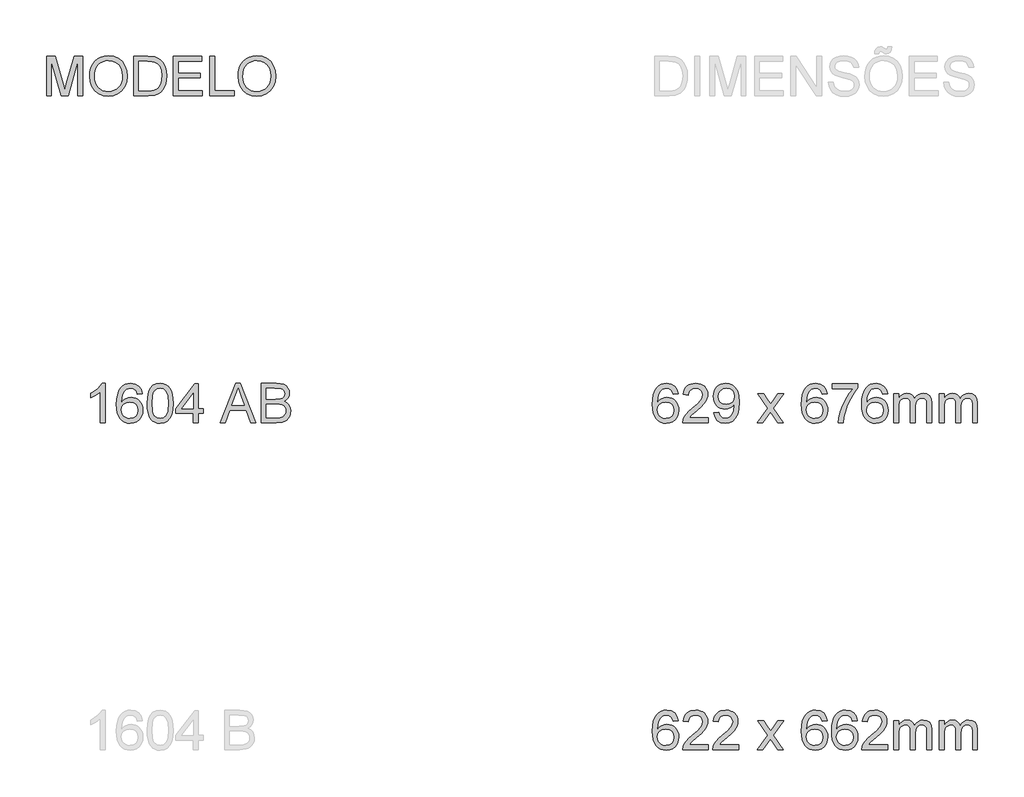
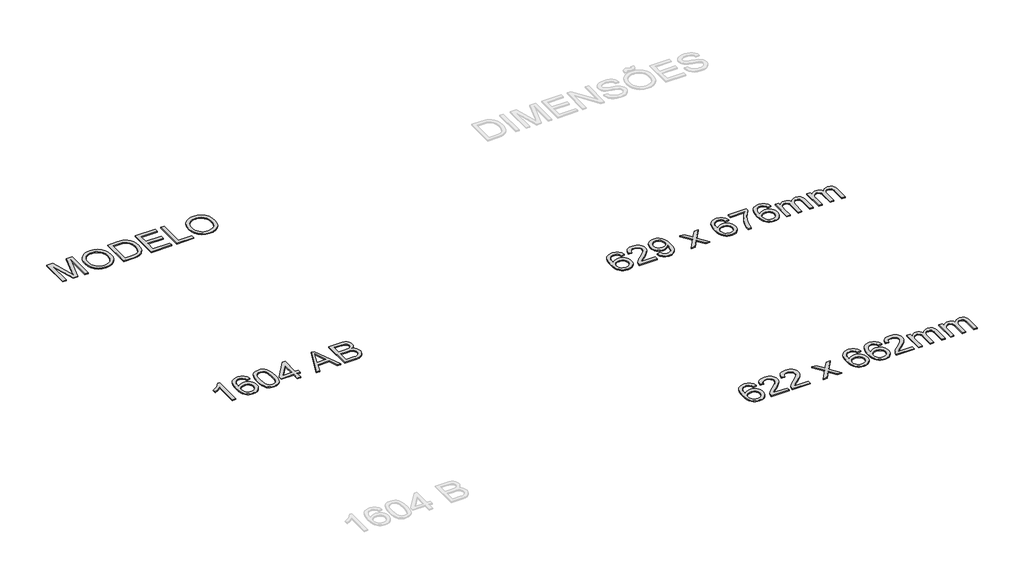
# One storey, part 32 of 39: 4 proxies.
"""IFC4 building model written with IfcOpenShell, lengths in millimetres."""

from ifc_helpers import new_model, si_unit, origin, origin_with_axes, place, context, project, spatial, polyline, outline, extrude, element, save

model = new_model("IFC4")

# Units and contexts
model_context = context("Model", 3, world=origin())
ifc_project = project(units=[si_unit("LENGTHUNIT", "METRE", prefix="MILLI")], contexts=[model_context])

# Site, building, storey
site = spatial("IfcSite", under=ifc_project)
building = spatial("IfcBuilding", under=site)
storey = spatial("IfcBuildingStorey", under=building, Name="Marelli - Linha PROFIT - Planta Baixa", Elevation=0.0)

# Proxies
placement = place(None, origin())
element("IfcBuildingElementProxy", 1, Name="300mm Arial", ObjectType="300mm Arial", at=placement, inside=storey, context=model_context, shape_type="SweptSolid", body=[
    extrude(outline(polyline([(-25136.3969286, 11940.7514882), (-25174.0680449, 11936.0425987), (-25180.1380978, 11954.7126099), (-25188.3418663, 11967.4597211), (-25205.429985, 11979.2135508), (-25226.086559, 11983.1314941), (-25243.597742, 11980.8506257), (-25260.0788554, 11974.0080206), (-25274.2331151, 11959.5962434), (-25285.7938068, 11939.7582068), (-25293.6021022, 11911.6980077), (-25296.4991729, 11872.6197427), (-25281.3884199, 11890.2504873), (-25263.2794287, 11902.6757017), (-25243.1838747, 11910.0425387), (-25222.1134335, 11912.498151), (-25204.0136393, 11910.8196894), (-25187.3117967, 11905.7843046), (-25172.0079057, 11897.3919966), (-25158.1019663, 11885.6427654), (-25146.5458731, 11871.2355867), (-25138.2915209, 11854.8694365), (-25133.3389095, 11836.5443146), (-25131.6880391, 11816.2602211), (-25134.7966419, 11789.2852738), (-25144.1224505, 11764.2784951), (-25158.8929126, 11743.0700981), (-25178.335476, 11727.4902956), (-25201.567224, 11717.9161667), (-25227.7052398, 11714.7247904), (-25250.1621363, 11716.8401119), (-25270.4439306, 11723.1860763), (-25288.5506225, 11733.7626836), (-25304.4822122, 11748.5699339), (-25317.4707459, 11768.2332266), (-25326.7482699, 11793.377961), (-25332.3147844, 11824.0041371), (-25334.1702892, 11860.1117549), (-25332.11015, 11900.5925699), (-25325.9297325, 11935.1412878), (-25315.6290366, 11963.7579085), (-25301.2080624, 11986.442432), (-25285.5776762, 12001.4750101), (-25267.4548894, 12012.2125658), (-25246.8397021, 12018.6550992), (-25223.7321142, 12020.8026104), (-25190.677917, 12015.4867156), (-25164.2088074, 11999.5390311), (-25145.6675549, 11974.2103557), (-25136.3969286, 11940.7514882)]), holes=[polyline([(-25296.4991729, 11816.8488323), (-25294.3194721, 11800.1561867), (-25287.7803696, 11784.2176993), (-25277.6268265, 11770.514095), (-25264.6038039, 11760.5260988), (-25248.8860457, 11754.4284547), (-25230.6482958, 11752.3959067), (-25205.7886699, 11756.6081555), (-25186.2449389, 11769.2449021), (-25173.5806013, 11789.1105298), (-25169.3591554, 11815.0094223), (-25173.525419, 11839.8690481), (-25186.0242097, 11858.8241679), (-25205.8990345, 11870.826318), (-25232.1934001, 11874.8270347), (-25257.0162378, 11870.826318), (-25277.7739793, 11858.8241679), (-25291.8178745, 11840.3289006), (-25296.4991729, 11816.8488323)])]), origin_with_axes(), (0.0, 0.0, 1.0), 10.0),
    extrude(outline(polyline([(-24905.6613412, 11757.1047962), (-24905.6613412, 11719.4336799), (-25103.4347018, 11719.4336799), (-25099.3879999, 11745.4061488), (-25090.0989795, 11765.7040379), (-25076.5057398, 11785.3949217), (-25056.8424471, 11806.0055104), (-25029.343268, 11829.0625145), (-24988.6923075, 11865.1701323), (-24964.3017312, 11891.8231829), (-24952.1064431, 11913.4546442), (-24948.0413471, 11934.4974943), (-24951.8765169, 11953.3606436), (-24963.3820263, 11969.0416137), (-24981.0679532, 11979.609024), (-25003.4443755, 11983.1314941), (-25026.942838, 11979.6917974), (-25045.198982, 11969.3727075), (-25056.9804029, 11952.9835646), (-25061.054696, 11931.3337092), (-25098.7258123, 11936.0425987), (-25089.5931418, 11972.4813103), (-25081.0467832, 11987.0172476), (-25069.8470757, 11999.0975727), (-25056.2515367, 12008.5935267), (-25040.5176836, 12015.376351), (-25002.6350351, 12020.8026104), (-24982.4452114, 12019.2942942), (-24964.4764752, 12014.7693457), (-24948.7288265, 12007.2277648), (-24935.2022654, 11996.6695515), (-24924.3382503, 11983.8764551), (-24916.5782394, 11969.6302249), (-24911.9222329, 11953.9308607), (-24910.3702308, 11936.7783627), (-24912.0440938, 11918.761342), (-24917.0656831, 11901.057021), (-24925.9776244, 11883.0491973), (-24939.3225438, 11864.1216686), (-24960.5953201, 11841.5245171), (-24993.2908325, 11812.5078247), (-25036.6273315, 11776.2714482), (-25053.6234797, 11757.1047962), (-24905.6613412, 11757.1047962)])), origin_with_axes(), (0.0, 0.0, 1.0), 10.0),
    extrude(outline(polyline([(-24863.2813354, 11794.7759125), (-24825.6102191, 11799.4848021), (-24819.1722841, 11778.1016611), (-24808.6876473, 11763.5427312), (-24794.4138259, 11755.1826128), (-24776.6083373, 11752.3959067), (-24760.6330617, 11754.1893314), (-24746.1109199, 11759.5696056), (-24734.0443905, 11767.948118), (-24725.4359518, 11778.7362576), (-24713.1119049, 11811.4777551), (-24707.6672514, 11855.1821362), (-24707.8879806, 11862.5397761), (-24720.9385944, 11846.6104857), (-24738.017516, 11833.9921332), (-24757.8923408, 11825.7699706), (-24779.3306641, 11823.0292498), (-24797.2258239, 11824.7031129), (-24813.6816454, 11829.7247021), (-24828.6981286, 11838.0940175), (-24842.2752734, 11849.811059), (-24853.5255647, 11864.2642229), (-24861.561487, 11880.8419053), (-24866.3830404, 11899.5441062), (-24867.9902249, 11920.3708257), (-24866.3048655, 11941.8919224), (-24861.2487873, 11961.2057272), (-24852.8219904, 11978.3122399), (-24841.0244747, 11993.2114607), (-24826.6885732, 12005.2825887), (-24810.6466189, 12013.904823), (-24792.8986119, 12019.0781635), (-24773.4445521, 12020.8026104), (-24745.3475648, 12016.866273), (-24719.7705691, 12005.057261), (-24698.378231, 11985.9641854), (-24682.8352167, 11960.1756576), (-24673.3714524, 11924.5278922), (-24670.2168643, 11875.8571043), (-24673.3622554, 11824.2524574), (-24682.7984285, 11784.3648521), (-24698.4426104, 11754.3916665), (-24720.2120274, 11732.530279), (-24747.1685806, 11719.1761625), (-24778.3741709, 11714.7247904), (-24810.5822396, 11719.9763059), (-24836.2787969, 11735.7308523), (-24854.2498324, 11760.9951483), (-24863.2813354, 11794.7759125)]), holes=[polyline([(-24707.8879806, 11921.2537425), (-24711.9530767, 11946.784753), (-24724.1483648, 11966.4296515), (-24743.0758934, 11978.9560334), (-24767.337711, 11983.1314941), (-24792.5008395, 11978.6341367), (-24812.6607728, 11965.1420645), (-24825.9045247, 11944.4946875), (-24830.3191086, 11918.5314157), (-24826.143648, 11895.2536825), (-24813.617266, 11876.7768093), (-24793.9539734, 11864.7194769), (-24768.3677806, 11860.7003661), (-24744.2991011, 11864.7194769), (-24724.920917, 11876.7768093), (-24712.1462147, 11895.9342642), (-24707.8879806, 11921.2537425)])]), origin_with_axes(), (0.0, 0.0, 1.0), 10.0),
    extrude(outline(polyline([(-24533.6590677, 11719.4336799), (-24453.1664871, 11830.6811953), (-24528.9501782, 11940.7514882), (-24483.6271163, 11940.7514882), (-24447.059646, 11887.7764809), (-24429.9899215, 11862.7605053), (-24415.2010652, 11883.2147442), (-24373.5568234, 11940.7514882), (-24328.2337616, 11940.7514882), (-24407.8434253, 11830.6811953), (-24331.1768175, 11719.4336799), (-24376.4998794, 11719.4336799), (-24422.6322815, 11786.3146267), (-24431.0935674, 11798.5283089), (-24488.3360059, 11719.4336799), (-24533.6590677, 11719.4336799)])), origin_with_axes(), (0.0, 0.0, 1.0), 10.0),
    extrude(outline(polyline([(-23996.8456603, 11940.7514882), (-24034.5167766, 11936.0425987), (-24040.5868296, 11954.7126099), (-24048.790598, 11967.4597211), (-24065.8787167, 11979.2135508), (-24086.5352908, 11983.1314941), (-24104.0464737, 11980.8506257), (-24120.5275871, 11974.0080206), (-24134.6818469, 11959.5962434), (-24146.2425386, 11939.7582068), (-24154.0508339, 11911.6980077), (-24156.9479046, 11872.6197427), (-24141.8371517, 11890.2504873), (-24123.7281605, 11902.6757017), (-24103.6326065, 11910.0425387), (-24082.5621652, 11912.498151), (-24064.462371, 11910.8196894), (-24047.7605285, 11905.7843046), (-24032.4566375, 11897.3919966), (-24018.550698, 11885.6427654), (-24006.9946049, 11871.2355867), (-23998.7402526, 11854.8694365), (-23993.7876412, 11836.5443146), (-23992.1367708, 11816.2602211), (-23995.2453737, 11789.2852738), (-24004.5711822, 11764.2784951), (-24019.3416443, 11743.0700981), (-24038.7842078, 11727.4902956), (-24062.0159558, 11717.9161667), (-24088.1539715, 11714.7247904), (-24110.6108681, 11716.8401119), (-24130.8926623, 11723.1860763), (-24148.9993543, 11733.7626836), (-24164.9309439, 11748.5699339), (-24177.9194776, 11768.2332266), (-24187.1970017, 11793.377961), (-24192.7635161, 11824.0041371), (-24194.6190209, 11860.1117549), (-24192.5588818, 11900.5925699), (-24186.3784642, 11935.1412878), (-24176.0777684, 11963.7579085), (-24161.6567942, 11986.442432), (-24146.0264079, 12001.4750101), (-24127.9036211, 12012.2125658), (-24107.2884338, 12018.6550992), (-24084.180846, 12020.8026104), (-24051.1266487, 12015.4867156), (-24024.6575392, 11999.5390311), (-24006.1162866, 11974.2103557), (-23996.8456603, 11940.7514882)]), holes=[polyline([(-24156.9479046, 11816.8488323), (-24154.7682038, 11800.1561867), (-24148.2291013, 11784.2176993), (-24138.0755583, 11770.514095), (-24125.0525356, 11760.5260988), (-24109.3347774, 11754.4284547), (-24091.0970275, 11752.3959067), (-24066.2374017, 11756.6081555), (-24046.6936707, 11769.2449021), (-24034.029333, 11789.1105298), (-24029.8078871, 11815.0094223), (-24033.9741507, 11839.8690481), (-24046.4729415, 11858.8241679), (-24066.3477663, 11870.826318), (-24092.6421319, 11874.8270347), (-24117.4649695, 11870.826318), (-24138.2227111, 11858.8241679), (-24152.2666062, 11840.3289006), (-24156.9479046, 11816.8488323)])]), origin_with_axes(), (0.0, 0.0, 1.0), 10.0),
    extrude(outline(polyline([(-23959.174544, 11978.4226045), (-23959.174544, 12016.0937208), (-23761.4011834, 12016.0937208), (-23761.4011834, 11985.6330916), (-23789.5901413, 11949.9577352), (-23817.5031877, 11904.5886881), (-23842.1236902, 11853.6646229), (-23860.4350165, 11801.3242121), (-23869.4113372, 11762.1631737), (-23874.4145323, 11719.4336799), (-23912.0856486, 11719.4336799), (-23908.0113555, 11758.2636245), (-23897.1128514, 11804.4144208), (-23879.6844419, 11853.3335291), (-23856.0204326, 11900.4684098), (-23828.3924947, 11943.0783418), (-23799.0722997, 11978.4226045), (-23959.174544, 11978.4226045)])), origin_with_axes(), (0.0, 0.0, 1.0), 10.0),
    extrude(outline(polyline([(-23535.3744856, 11940.7514882), (-23573.0456019, 11936.0425987), (-23579.1156548, 11954.7126099), (-23587.3194233, 11967.4597211), (-23604.407542, 11979.2135508), (-23625.064116, 11983.1314941), (-23642.575299, 11980.8506257), (-23659.0564124, 11974.0080206), (-23673.2106721, 11959.5962434), (-23684.7713638, 11939.7582068), (-23692.5796592, 11911.6980077), (-23695.4767299, 11872.6197427), (-23680.3659769, 11890.2504873), (-23662.2569857, 11902.6757017), (-23642.1614317, 11910.0425387), (-23621.0909905, 11912.498151), (-23602.9911963, 11910.8196894), (-23586.2893537, 11905.7843046), (-23570.9854627, 11897.3919966), (-23557.0795233, 11885.6427654), (-23545.5234301, 11871.2355867), (-23537.2690779, 11854.8694365), (-23532.3164665, 11836.5443146), (-23530.665596, 11816.2602211), (-23533.7741989, 11789.2852738), (-23543.1000075, 11764.2784951), (-23557.8704696, 11743.0700981), (-23577.313033, 11727.4902956), (-23600.544781, 11717.9161667), (-23626.6827968, 11714.7247904), (-23649.1396933, 11716.8401119), (-23669.4214876, 11723.1860763), (-23687.5281795, 11733.7626836), (-23703.4597692, 11748.5699339), (-23716.4483029, 11768.2332266), (-23725.7258269, 11793.377961), (-23731.2923414, 11824.0041371), (-23733.1478462, 11860.1117549), (-23731.087707, 11900.5925699), (-23724.9072895, 11935.1412878), (-23714.6065936, 11963.7579085), (-23700.1856194, 11986.442432), (-23684.5552331, 12001.4750101), (-23666.4324464, 12012.2125658), (-23645.8172591, 12018.6550992), (-23622.7096712, 12020.8026104), (-23589.655474, 12015.4867156), (-23563.1863644, 11999.5390311), (-23544.6451119, 11974.2103557), (-23535.3744856, 11940.7514882)]), holes=[polyline([(-23695.4767299, 11816.8488323), (-23693.2970291, 11800.1561867), (-23686.7579266, 11784.2176993), (-23676.6043835, 11770.514095), (-23663.5813609, 11760.5260988), (-23647.8636027, 11754.4284547), (-23629.6258527, 11752.3959067), (-23604.7662269, 11756.6081555), (-23585.2224959, 11769.2449021), (-23572.5581582, 11789.1105298), (-23568.3367123, 11815.0094223), (-23572.5029759, 11839.8690481), (-23585.0017667, 11858.8241679), (-23604.8765915, 11870.826318), (-23631.1709571, 11874.8270347), (-23655.9937947, 11870.826318), (-23676.7515363, 11858.8241679), (-23690.7954315, 11840.3289006), (-23695.4767299, 11816.8488323)])]), origin_with_axes(), (0.0, 0.0, 1.0), 10.0),
    extrude(outline(polyline([(-23488.2855902, 11719.4336799), (-23488.2855902, 11940.7514882), (-23450.6144739, 11940.7514882), (-23450.6144739, 11904.3311707), (-23439.2837084, 11921.0606044), (-23424.7155814, 11934.1664005), (-23407.4067336, 11942.6368835), (-23387.8538055, 11945.4603778), (-23366.9029259, 11942.5817012), (-23350.1091128, 11933.9456713), (-23337.5643368, 11920.1225054), (-23329.3605683, 11901.6824203), (-23315.6293728, 11920.8352767), (-23299.9667969, 11934.5158884), (-23282.3728404, 11942.7242554), (-23262.8475036, 11945.4603778), (-23234.529787, 11940.9078381), (-23213.5881044, 11927.250219), (-23200.6478552, 11904.1196386), (-23196.3344388, 11871.1482147), (-23196.3344388, 11719.4336799), (-23234.0055551, 11719.4336799), (-23234.0055551, 11854.961407), (-23237.5004341, 11886.4153175), (-23242.4116587, 11895.0881356), (-23250.1555747, 11901.9031495), (-23260.1159797, 11906.3177335), (-23271.6766714, 11907.7892615), (-23292.0849251, 11904.018471), (-23308.7223884, 11892.7060997), (-23319.7864394, 11873.0795952), (-23323.4744564, 11844.3664055), (-23323.4744564, 11719.4336799), (-23361.1455727, 11719.4336799), (-23361.1455727, 11859.1552617), (-23363.3252735, 11880.4556292), (-23369.864376, 11895.6491556), (-23381.3698853, 11904.754235), (-23398.448807, 11907.7892615), (-23412.9617517, 11905.7659105), (-23426.3342622, 11899.6958576), (-23437.3707221, 11889.7262555), (-23444.8755148, 11876.0042571), (-23449.1797341, 11856.9663638), (-23450.6144739, 11831.0490773), (-23450.6144739, 11719.4336799), (-23488.2855902, 11719.4336799)])), origin_with_axes(), (0.0, 0.0, 1.0), 10.0),
    extrude(outline(polyline([(-23139.8277644, 11719.4336799), (-23139.8277644, 11940.7514882), (-23102.1566481, 11940.7514882), (-23102.1566481, 11904.3311707), (-23090.8258826, 11921.0606044), (-23076.2577556, 11934.1664005), (-23058.9489077, 11942.6368835), (-23039.3959797, 11945.4603778), (-23018.4451001, 11942.5817012), (-23001.651287, 11933.9456713), (-22989.1065109, 11920.1225054), (-22980.9027425, 11901.6824203), (-22967.171547, 11920.8352767), (-22951.508971, 11934.5158884), (-22933.9150146, 11942.7242554), (-22914.3896777, 11945.4603778), (-22886.0719611, 11940.9078381), (-22865.1302786, 11927.250219), (-22852.1900294, 11904.1196386), (-22847.876613, 11871.1482147), (-22847.876613, 11719.4336799), (-22885.5477293, 11719.4336799), (-22885.5477293, 11854.961407), (-22889.0426083, 11886.4153175), (-22893.9538329, 11895.0881356), (-22901.6977489, 11901.9031495), (-22911.6581539, 11906.3177335), (-22923.2188456, 11907.7892615), (-22943.6270993, 11904.018471), (-22960.2645625, 11892.7060997), (-22971.3286135, 11873.0795952), (-22975.0166305, 11844.3664055), (-22975.0166305, 11719.4336799), (-23012.6877468, 11719.4336799), (-23012.6877468, 11859.1552617), (-23014.8674477, 11880.4556292), (-23021.4065501, 11895.6491556), (-23032.9120595, 11904.754235), (-23049.9909811, 11907.7892615), (-23064.5039259, 11905.7659105), (-23077.8764364, 11899.6958576), (-23088.9128962, 11889.7262555), (-23096.4176889, 11876.0042571), (-23100.7219083, 11856.9663638), (-23102.1566481, 11831.0490773), (-23102.1566481, 11719.4336799), (-23139.8277644, 11719.4336799)])), origin_with_axes(), (0.0, 0.0, 1.0), 10.0),
])
element("IfcBuildingElementProxy", 2, Name="300mm Arial", ObjectType="300mm Arial", at=placement, inside=storey, context=model_context, shape_type="SweptSolid", body=[
    extrude(outline(polyline([(-29966.8769052, 14219.4336799), (-29966.8769052, 14520.8026104), (-29902.0560977, 14520.8026104), (-29840.3990753, 14308.3875464), (-29827.9646638, 14264.0209777), (-29814.5001828, 14312.0663663), (-29753.87323, 14520.8026104), (-29689.0524225, 14520.8026104), (-29689.0524225, 14219.4336799), (-29726.7235388, 14219.4336799), (-29726.7235388, 14483.1314941), (-29802.4336534, 14219.4336799), (-29853.4956743, 14219.4336799), (-29929.2057889, 14483.1314941), (-29929.2057889, 14219.4336799), (-29966.8769052, 14219.4336799)])), origin_with_axes(), (0.0, 0.0, 1.0), 10.0),
    extrude(outline(polyline([(-29637.2546375, 14366.1450196), (-29634.7438429, 14401.4938808), (-29627.2114591, 14432.786843), (-29614.657486, 14460.0239063), (-29597.0819237, 14483.2050705), (-29575.5378343, 14501.7141334), (-29551.0782802, 14514.9348926), (-29523.7032612, 14522.8673481), (-29493.4127774, 14525.5114999), (-29453.883857, 14520.545093), (-29418.4384268, 14505.6458722), (-29389.0078672, 14481.8623012), (-29367.5235587, 14450.2428437), (-29354.3901714, 14412.31421), (-29350.0123757, 14369.6031104), (-29354.6200977, 14326.3217936), (-29368.4432637, 14287.859731), (-29390.7185185, 14256.1850913), (-29420.682507, 14233.266043), (-29455.8244346, 14219.3601035), (-29493.6335066, 14214.7247904), (-29533.7694323, 14219.8475472), (-29569.4171976, 14235.2158175), (-29598.7741808, 14259.4408469), (-29620.0377602, 14291.1338808), (-29632.9504182, 14327.6001836), (-29637.2546375, 14366.1450196)]), holes=[polyline([(-29599.5835212, 14365.7771376), (-29597.7004253, 14340.8025487), (-29592.0511374, 14318.6330599), (-29582.6356576, 14299.2686714), (-29569.4539858, 14282.7093831), (-29553.4304257, 14269.4472372), (-29535.4892806, 14259.9742758), (-29515.6305507, 14254.290499), (-29493.8542358, 14252.3959067), (-29471.7054404, 14254.3088931), (-29451.6121857, 14260.0478522), (-29433.5744716, 14269.6127841), (-29417.5922982, 14283.0036887), (-29404.5071955, 14299.9124649), (-29395.1606936, 14320.0310115), (-29389.5527924, 14343.3593285), (-29387.683492, 14369.897416), (-29390.8840654, 14403.2459188), (-29400.4857854, 14432.0694731), (-29416.2403319, 14455.641512), (-29437.8993843, 14473.2354684), (-29464.0282031, 14484.1891548), (-29493.1920482, 14487.8403836), (-29514.2119057, 14486.0814478), (-29533.71425, 14480.8046405), (-29551.699081, 14472.0099615), (-29568.1663988, 14459.697411), (-29581.9113899, 14443.2737792), (-29591.7292406, 14422.1458563), (-29597.6199511, 14396.3136425), (-29599.5835212, 14365.7771376)])]), origin_with_axes(), (0.0, 0.0, 1.0), 10.0),
    extrude(outline(polyline([(-29298.2145908, 14219.4336799), (-29298.2145908, 14520.8026104), (-29194.2511389, 14520.8026104), (-29140.4667912, 14516.4616028), (-29116.444097, 14508.0922874), (-29096.173799, 14494.9037179), (-29075.333284, 14471.9478814), (-29060.4892455, 14443.4002386), (-29051.6048953, 14409.8126124), (-29048.6434453, 14371.7368259), (-29050.6484021, 14339.3908015), (-29056.6632727, 14310.9259321), (-29065.8235344, 14286.6917057), (-29077.2646645, 14267.0376101), (-29090.4348399, 14251.522187), (-29104.7822377, 14239.7039779), (-29121.254154, 14230.9391893), (-29140.797885, 14224.5840279), (-29189.2479438, 14219.4336799), (-29298.2145908, 14219.4336799)]), holes=[polyline([(-29260.5434745, 14257.1047962), (-29193.8832569, 14257.1047962), (-29166.3105014, 14258.4659596), (-29145.39641, 14262.5494498), (-29129.6142724, 14269.1161434), (-29117.4373783, 14277.9269172), (-29104.3499764, 14294.2332866), (-29094.51833, 14315.3405161), (-29088.3655037, 14341.3405761), (-29086.3145616, 14372.3254371), (-29090.3336724, 14413.3810678), (-29102.3910047, 14443.6945442), (-29120.2056904, 14464.5166651), (-29141.4968608, 14477.0982294), (-29163.1651103, 14481.6231779), (-29194.9133265, 14483.1314941), (-29260.5434745, 14483.1314941), (-29260.5434745, 14257.1047962)])]), origin_with_axes(), (0.0, 0.0, 1.0), 10.0),
    extrude(outline(polyline([(-28996.8456603, 14219.4336799), (-28996.8456603, 14520.8026104), (-28780.2367416, 14520.8026104), (-28780.2367416, 14483.1314941), (-28959.174544, 14483.1314941), (-28959.174544, 14393.6625928), (-28789.6545206, 14393.6625928), (-28789.6545206, 14355.9914765), (-28959.174544, 14355.9914765), (-28959.174544, 14257.1047962), (-28775.527852, 14257.1047962), (-28775.527852, 14219.4336799), (-28996.8456603, 14219.4336799)])), origin_with_axes(), (0.0, 0.0, 1.0), 10.0),
    extrude(outline(polyline([(-28719.0211776, 14219.4336799), (-28719.0211776, 14520.8026104), (-28681.3500613, 14520.8026104), (-28681.3500613, 14257.1047962), (-28530.665596, 14257.1047962), (-28530.665596, 14219.4336799), (-28719.0211776, 14219.4336799)])), origin_with_axes(), (0.0, 0.0, 1.0), 10.0),
    extrude(outline(polyline([(-28502.4122588, 14366.1450196), (-28499.9014642, 14401.4938808), (-28492.3690803, 14432.786843), (-28479.8151073, 14460.0239063), (-28462.2395449, 14483.2050705), (-28440.6954556, 14501.7141334), (-28416.2359014, 14514.9348926), (-28388.8608825, 14522.8673481), (-28358.5703987, 14525.5114999), (-28319.0414783, 14520.545093), (-28283.5960481, 14505.6458722), (-28254.1654885, 14481.8623012), (-28232.6811799, 14450.2428437), (-28219.5477927, 14412.31421), (-28215.169997, 14369.6031104), (-28219.777719, 14326.3217936), (-28233.6008849, 14287.859731), (-28255.8761397, 14256.1850913), (-28285.8401283, 14233.266043), (-28320.9820558, 14219.3601035), (-28358.7911279, 14214.7247904), (-28398.9270536, 14219.8475472), (-28434.5748189, 14235.2158175), (-28463.9318021, 14259.4408469), (-28485.1953814, 14291.1338808), (-28498.1080395, 14327.6001836), (-28502.4122588, 14366.1450196)]), holes=[polyline([(-28464.7411425, 14365.7771376), (-28462.8580465, 14340.8025487), (-28457.2087587, 14318.6330599), (-28447.7932788, 14299.2686714), (-28434.6116071, 14282.7093831), (-28418.5880469, 14269.4472372), (-28400.6469019, 14259.9742758), (-28380.7881719, 14254.290499), (-28359.0118571, 14252.3959067), (-28336.8630617, 14254.3088931), (-28316.769807, 14260.0478522), (-28298.7320929, 14269.6127841), (-28282.7499195, 14283.0036887), (-28269.6648168, 14299.9124649), (-28260.3183148, 14320.0310115), (-28254.7104137, 14343.3593285), (-28252.8411133, 14369.897416), (-28256.0416866, 14403.2459188), (-28265.6434067, 14432.0694731), (-28281.3979532, 14455.641512), (-28303.0570056, 14473.2354684), (-28329.1858243, 14484.1891548), (-28358.3496695, 14487.8403836), (-28379.369527, 14486.0814478), (-28398.8718713, 14480.8046405), (-28416.8567023, 14472.0099615), (-28433.3240201, 14459.697411), (-28447.0690112, 14443.2737792), (-28456.8868619, 14422.1458563), (-28462.7775724, 14396.3136425), (-28464.7411425, 14365.7771376)])]), origin_with_axes(), (0.0, 0.0, 1.0), 10.0),
])
element("IfcBuildingElementProxy", 3, Name="300mm Arial", ObjectType="300mm Arial", at=placement, inside=storey, context=model_context, shape_type="SweptSolid", body=[
    extrude(outline(polyline([(-29517.1779543, 11719.4336799), (-29554.8490706, 11719.4336799), (-29554.8490706, 11954.2895457), (-29590.5336241, 11928.8688998), (-29630.1913032, 11909.8494006), (-29630.1913032, 11945.4603778), (-29600.6043938, 11961.5552151), (-29574.9722158, 11980.7034729), (-29554.7662972, 12001.0657413), (-29541.458166, 12020.8026104), (-29517.1779543, 12020.8026104), (-29517.1779543, 11719.4336799)])), origin_with_axes(), (0.0, 0.0, 1.0), 10.0),
    extrude(outline(polyline([(-29234.644582, 11940.7514882), (-29272.3156983, 11936.0425987), (-29278.3857512, 11954.7126099), (-29286.5895197, 11967.4597211), (-29303.6776384, 11979.2135508), (-29324.3342124, 11983.1314941), (-29341.8453954, 11980.8506257), (-29358.3265088, 11974.0080206), (-29372.4807686, 11959.5962434), (-29384.0414603, 11939.7582068), (-29391.8497556, 11911.6980077), (-29394.7468263, 11872.6197427), (-29379.6360734, 11890.2504873), (-29361.5270821, 11902.6757017), (-29341.4315282, 11910.0425387), (-29320.3610869, 11912.498151), (-29302.2612927, 11910.8196894), (-29285.5594501, 11905.7843046), (-29270.2555591, 11897.3919966), (-29256.3496197, 11885.6427654), (-29244.7935266, 11871.2355867), (-29236.5391743, 11854.8694365), (-29231.5865629, 11836.5443146), (-29229.9356925, 11816.2602211), (-29233.0442953, 11789.2852738), (-29242.3701039, 11764.2784951), (-29257.140566, 11743.0700981), (-29276.5831295, 11727.4902956), (-29299.8148775, 11717.9161667), (-29325.9528932, 11714.7247904), (-29348.4097898, 11716.8401119), (-29368.691584, 11723.1860763), (-29386.798276, 11733.7626836), (-29402.7298656, 11748.5699339), (-29415.7183993, 11768.2332266), (-29424.9959234, 11793.377961), (-29430.5624378, 11824.0041371), (-29432.4179426, 11860.1117549), (-29430.3578034, 11900.5925699), (-29424.1773859, 11935.1412878), (-29413.8766901, 11963.7579085), (-29399.4557159, 11986.442432), (-29383.8253296, 12001.4750101), (-29365.7025428, 12012.2125658), (-29345.0873555, 12018.6550992), (-29321.9797677, 12020.8026104), (-29288.9255704, 12015.4867156), (-29262.4564608, 11999.5390311), (-29243.9152083, 11974.2103557), (-29234.644582, 11940.7514882)]), holes=[polyline([(-29394.7468263, 11816.8488323), (-29392.5671255, 11800.1561867), (-29386.028023, 11784.2176993), (-29375.87448, 11770.514095), (-29362.8514573, 11760.5260988), (-29347.1336991, 11754.4284547), (-29328.8959492, 11752.3959067), (-29304.0363234, 11756.6081555), (-29284.4925924, 11769.2449021), (-29271.8282547, 11789.1105298), (-29267.6068088, 11815.0094223), (-29271.7730724, 11839.8690481), (-29284.2718632, 11858.8241679), (-29304.146688, 11870.826318), (-29330.4410536, 11874.8270347), (-29355.2638912, 11870.826318), (-29376.0216328, 11858.8241679), (-29390.0655279, 11840.3289006), (-29394.7468263, 11816.8488323)])]), origin_with_axes(), (0.0, 0.0, 1.0), 10.0),
    extrude(outline(polyline([(-29196.9734657, 11867.690124), (-29194.2051537, 11915.9286506), (-29185.9002177, 11954.3999103), (-29172.141431, 11983.6925141), (-29153.0115673, 12004.3950734), (-29128.3726707, 12016.7007261), (-29098.0867854, 12020.8026104), (-29074.8734315, 12018.3745892), (-29054.0880988, 12011.0905257), (-29036.7056745, 11999.2355284), (-29023.701046, 11983.0947059), (-29013.8785967, 11962.8060138), (-29006.0427102, 11938.5074081), (-29000.9107564, 11907.6513057), (-28999.2001051, 11867.690124), (-29001.940826, 11819.7275089), (-29010.1629886, 11781.3482197), (-29023.8390017, 11752.0280247), (-29042.9412743, 11731.242692), (-29067.6353533, 11718.8542658), (-29098.0867854, 11714.7247904), (-29118.8353299, 11716.5182151), (-29137.2294297, 11721.8984893), (-29153.2690847, 11730.8656129), (-29166.9542949, 11743.419586), (-29180.0876821, 11766.1133066), (-29189.468673, 11794.3896364), (-29195.0972675, 11828.2485756), (-29196.9734657, 11867.690124)]), holes=[polyline([(-29159.3023494, 11867.7637004), (-29154.8877655, 11808.507108), (-29149.3695355, 11788.2391093), (-29141.6440136, 11774.211309), (-29121.9255387, 11757.8497573), (-29098.0867854, 11752.3959067), (-29074.2480321, 11757.8681514), (-29054.5295572, 11774.2848854), (-29046.8040353, 11788.3356784), (-29041.2858053, 11808.5990785), (-29036.8712214, 11867.7637004), (-29041.1386525, 11925.6867205), (-29046.4729415, 11945.8880406), (-29053.940946, 11960.249234), (-29073.6226327, 11977.410929), (-29098.5282438, 11983.1314941), (-29122.1094797, 11978.0915107), (-29141.0554024, 11962.9715607), (-29149.0384417, 11947.3365759), (-29154.7406127, 11926.2569376), (-29159.3023494, 11867.7637004)])]), origin_with_axes(), (0.0, 0.0, 1.0), 10.0),
    extrude(outline(polyline([(-28843.8067503, 11719.4336799), (-28843.8067503, 11790.067023), (-28980.3645469, 11790.067023), (-28980.3645469, 11827.7381393), (-28834.3889713, 12016.0937208), (-28806.135634, 12016.0937208), (-28806.135634, 11827.7381393), (-28768.4645177, 11827.7381393), (-28768.4645177, 11790.067023), (-28806.135634, 11790.067023), (-28806.135634, 11719.4336799), (-28843.8067503, 11719.4336799)]), holes=[polyline([(-28843.8067503, 11827.7381393), (-28843.8067503, 11944.1360026), (-28934.0114156, 11827.7381393), (-28843.8067503, 11827.7381393)])]), origin_with_axes(), (0.0, 0.0, 1.0), 10.0),
    extrude(outline(polyline([(-28638.7493262, 11719.4336799), (-28518.4519138, 12020.8026104), (-28486.3726038, 12020.8026104), (-28366.0751914, 11719.4336799), (-28405.8800233, 11719.4336799), (-28440.3873544, 11813.6114707), (-28564.5107396, 11813.6114707), (-28598.9444943, 11719.4336799), (-28638.7493262, 11719.4336799)]), holes=[polyline([(-28550.6783766, 11851.282587), (-28454.146141, 11851.282587), (-28481.2958323, 11925.3740208), (-28502.4122588, 11983.1314941), (-28521.1742406, 11931.8487439), (-28550.6783766, 11851.282587)])]), origin_with_axes(), (0.0, 0.0, 1.0), 10.0),
    extrude(outline(polyline([(-28325.8289011, 11719.4336799), (-28325.8289011, 12020.8026104), (-28210.8289894, 12020.8026104), (-28179.2003349, 12018.5861214), (-28154.506256, 12011.9366543), (-28135.5787273, 12000.6886623), (-28121.2497236, 11984.6765985), (-28112.2274177, 11965.8410403), (-28109.2199824, 11946.1225654), (-28111.7491711, 11927.9767859), (-28119.3367372, 11910.9162584), (-28132.0378631, 11895.9894465), (-28149.907731, 11884.2448138), (-28128.5613783, 11873.0979893), (-28112.7884377, 11856.1386293), (-28103.0487619, 11834.4887739), (-28099.8022033, 11809.2704632), (-28102.0186923, 11788.2552042), (-28108.6681594, 11768.7666555), (-28118.5917762, 11752.1935716), (-28130.6307145, 11739.9247071), (-28145.3735854, 11731.0403569), (-28163.4090003, 11724.6208161), (-28211.7119062, 11719.4336799), (-28325.8289011, 11719.4336799)]), holes=[polyline([(-28288.1577848, 11898.3714824), (-28219.3638517, 11898.3714824), (-28179.1911379, 11901.6088439), (-28165.1288486, 11907.1914532), (-28155.0212908, 11915.5515716), (-28148.9236467, 11926.5604403), (-28146.8910987, 11940.0893006), (-28148.7856909, 11953.2226879), (-28154.4694678, 11964.6638179), (-28163.6849118, 11973.5941533), (-28176.1745055, 11979.1951567), (-28224.5877761, 11983.1314941), (-28288.1577848, 11983.1314941), (-28288.1577848, 11898.3714824)]), polyline([(-28288.1577848, 11757.1047962), (-28210.9025658, 11757.1047962), (-28182.9435342, 11758.5763242), (-28159.2887219, 11766.7800927), (-28143.6169489, 11783.5187235), (-28139.0092269, 11795.3461296), (-28137.4733196, 11808.9025812), (-28139.2759414, 11824.6479306), (-28144.6838067, 11838.185988), (-28154.1291769, 11848.7717924), (-28168.0443134, 11855.6603827), (-28187.7535913, 11859.4403702), (-28214.5813858, 11860.7003661), (-28288.1577848, 11860.7003661), (-28288.1577848, 11757.1047962)])]), origin_with_axes(), (0.0, 0.0, 1.0), 10.0),
])
element("IfcBuildingElementProxy", 4, Name="300mm Arial", ObjectType="300mm Arial", at=placement, inside=storey, context=model_context, shape_type="SweptSolid", body=[
    extrude(outline(polyline([(-25136.3969286, 9440.7514882), (-25174.0680449, 9436.0425987), (-25180.1380978, 9454.7126099), (-25188.3418663, 9467.4597211), (-25205.429985, 9479.2135508), (-25226.086559, 9483.1314941), (-25243.597742, 9480.8506257), (-25260.0788554, 9474.0080206), (-25274.2331151, 9459.5962434), (-25285.7938068, 9439.7582068), (-25293.6021022, 9411.6980077), (-25296.4991729, 9372.6197427), (-25281.3884199, 9390.2504873), (-25263.2794287, 9402.6757017), (-25243.1838747, 9410.0425387), (-25222.1134335, 9412.498151), (-25204.0136393, 9410.8196894), (-25187.3117967, 9405.7843046), (-25172.0079057, 9397.3919966), (-25158.1019663, 9385.6427654), (-25146.5458731, 9371.2355867), (-25138.2915209, 9354.8694365), (-25133.3389095, 9336.5443146), (-25131.6880391, 9316.2602211), (-25134.7966419, 9289.2852738), (-25144.1224505, 9264.2784951), (-25158.8929126, 9243.0700981), (-25178.335476, 9227.4902956), (-25201.567224, 9217.9161667), (-25227.7052398, 9214.7247904), (-25250.1621363, 9216.8401119), (-25270.4439306, 9223.1860763), (-25288.5506225, 9233.7626836), (-25304.4822122, 9248.5699339), (-25317.4707459, 9268.2332266), (-25326.7482699, 9293.377961), (-25332.3147844, 9324.0041371), (-25334.1702892, 9360.1117549), (-25332.11015, 9400.5925699), (-25325.9297325, 9435.1412878), (-25315.6290366, 9463.7579085), (-25301.2080624, 9486.442432), (-25285.5776762, 9501.4750101), (-25267.4548894, 9512.2125658), (-25246.8397021, 9518.6550992), (-25223.7321142, 9520.8026104), (-25190.677917, 9515.4867156), (-25164.2088074, 9499.5390311), (-25145.6675549, 9474.2103557), (-25136.3969286, 9440.7514882)]), holes=[polyline([(-25296.4991729, 9316.8488323), (-25294.3194721, 9300.1561867), (-25287.7803696, 9284.2176993), (-25277.6268265, 9270.514095), (-25264.6038039, 9260.5260988), (-25248.8860457, 9254.4284547), (-25230.6482958, 9252.3959067), (-25205.7886699, 9256.6081555), (-25186.2449389, 9269.2449021), (-25173.5806013, 9289.1105298), (-25169.3591554, 9315.0094223), (-25173.525419, 9339.8690481), (-25186.0242097, 9358.8241679), (-25205.8990345, 9370.826318), (-25232.1934001, 9374.8270347), (-25257.0162378, 9370.826318), (-25277.7739793, 9358.8241679), (-25291.8178745, 9340.3289006), (-25296.4991729, 9316.8488323)])]), origin_with_axes(), (0.0, 0.0, 1.0), 10.0),
    extrude(outline(polyline([(-24905.6613412, 9257.1047962), (-24905.6613412, 9219.4336799), (-25103.4347018, 9219.4336799), (-25099.3879999, 9245.4061488), (-25090.0989795, 9265.7040379), (-25076.5057398, 9285.3949217), (-25056.8424471, 9306.0055104), (-25029.343268, 9329.0625145), (-24988.6923075, 9365.1701323), (-24964.3017312, 9391.8231829), (-24952.1064431, 9413.4546442), (-24948.0413471, 9434.4974943), (-24951.8765169, 9453.3606436), (-24963.3820263, 9469.0416137), (-24981.0679532, 9479.609024), (-25003.4443755, 9483.1314941), (-25026.942838, 9479.6917974), (-25045.198982, 9469.3727075), (-25056.9804029, 9452.9835646), (-25061.054696, 9431.3337092), (-25098.7258123, 9436.0425987), (-25089.5931418, 9472.4813103), (-25081.0467832, 9487.0172476), (-25069.8470757, 9499.0975727), (-25056.2515367, 9508.5935267), (-25040.5176836, 9515.376351), (-25002.6350351, 9520.8026104), (-24982.4452114, 9519.2942942), (-24964.4764752, 9514.7693457), (-24948.7288265, 9507.2277648), (-24935.2022654, 9496.6695515), (-24924.3382503, 9483.8764551), (-24916.5782394, 9469.6302249), (-24911.9222329, 9453.9308607), (-24910.3702308, 9436.7783627), (-24912.0440938, 9418.761342), (-24917.0656831, 9401.057021), (-24925.9776244, 9383.0491973), (-24939.3225438, 9364.1216686), (-24960.5953201, 9341.5245171), (-24993.2908325, 9312.5078247), (-25036.6273315, 9276.2714482), (-25053.6234797, 9257.1047962), (-24905.6613412, 9257.1047962)])), origin_with_axes(), (0.0, 0.0, 1.0), 10.0),
    extrude(outline(polyline([(-24674.9257538, 9257.1047962), (-24674.9257538, 9219.4336799), (-24872.6991144, 9219.4336799), (-24868.6524125, 9245.4061488), (-24859.3633921, 9265.7040379), (-24845.7701524, 9285.3949217), (-24826.1068598, 9306.0055104), (-24798.6076806, 9329.0625145), (-24757.9567202, 9365.1701323), (-24733.5661439, 9391.8231829), (-24721.3708557, 9413.4546442), (-24717.3057597, 9434.4974943), (-24721.1409295, 9453.3606436), (-24732.6464389, 9469.0416137), (-24750.3323658, 9479.609024), (-24772.7087882, 9483.1314941), (-24796.2072506, 9479.6917974), (-24814.4633946, 9469.3727075), (-24826.2448155, 9452.9835646), (-24830.3191086, 9431.3337092), (-24867.9902249, 9436.0425987), (-24858.8575544, 9472.4813103), (-24850.3111958, 9487.0172476), (-24839.1114883, 9499.0975727), (-24825.5159493, 9508.5935267), (-24809.7820962, 9515.376351), (-24771.8994478, 9520.8026104), (-24751.709624, 9519.2942942), (-24733.7408878, 9514.7693457), (-24717.9932392, 9507.2277648), (-24704.4666781, 9496.6695515), (-24693.6026629, 9483.8764551), (-24685.842652, 9469.6302249), (-24681.1866455, 9453.9308607), (-24679.6346434, 9436.7783627), (-24681.3085065, 9418.761342), (-24686.3300957, 9401.057021), (-24695.242037, 9383.0491973), (-24708.5869564, 9364.1216686), (-24729.8597328, 9341.5245171), (-24762.5552451, 9312.5078247), (-24805.8917441, 9276.2714482), (-24822.8878923, 9257.1047962), (-24674.9257538, 9257.1047962)])), origin_with_axes(), (0.0, 0.0, 1.0), 10.0),
    extrude(outline(polyline([(-24533.6590677, 9219.4336799), (-24453.1664871, 9330.6811953), (-24528.9501782, 9440.7514882), (-24483.6271163, 9440.7514882), (-24447.059646, 9387.7764809), (-24429.9899215, 9362.7605053), (-24415.2010652, 9383.2147442), (-24373.5568234, 9440.7514882), (-24328.2337616, 9440.7514882), (-24407.8434253, 9330.6811953), (-24331.1768175, 9219.4336799), (-24376.4998794, 9219.4336799), (-24422.6322815, 9286.3146267), (-24431.0935674, 9298.5283089), (-24488.3360059, 9219.4336799), (-24533.6590677, 9219.4336799)])), origin_with_axes(), (0.0, 0.0, 1.0), 10.0),
    extrude(outline(polyline([(-23996.8456603, 9440.7514882), (-24034.5167766, 9436.0425987), (-24040.5868296, 9454.7126099), (-24048.790598, 9467.4597211), (-24065.8787167, 9479.2135508), (-24086.5352908, 9483.1314941), (-24104.0464737, 9480.8506257), (-24120.5275871, 9474.0080206), (-24134.6818469, 9459.5962434), (-24146.2425386, 9439.7582068), (-24154.0508339, 9411.6980077), (-24156.9479046, 9372.6197427), (-24141.8371517, 9390.2504873), (-24123.7281605, 9402.6757017), (-24103.6326065, 9410.0425387), (-24082.5621652, 9412.498151), (-24064.462371, 9410.8196894), (-24047.7605285, 9405.7843046), (-24032.4566375, 9397.3919966), (-24018.550698, 9385.6427654), (-24006.9946049, 9371.2355867), (-23998.7402526, 9354.8694365), (-23993.7876412, 9336.5443146), (-23992.1367708, 9316.2602211), (-23995.2453737, 9289.2852738), (-24004.5711822, 9264.2784951), (-24019.3416443, 9243.0700981), (-24038.7842078, 9227.4902956), (-24062.0159558, 9217.9161667), (-24088.1539715, 9214.7247904), (-24110.6108681, 9216.8401119), (-24130.8926623, 9223.1860763), (-24148.9993543, 9233.7626836), (-24164.9309439, 9248.5699339), (-24177.9194776, 9268.2332266), (-24187.1970017, 9293.377961), (-24192.7635161, 9324.0041371), (-24194.6190209, 9360.1117549), (-24192.5588818, 9400.5925699), (-24186.3784642, 9435.1412878), (-24176.0777684, 9463.7579085), (-24161.6567942, 9486.442432), (-24146.0264079, 9501.4750101), (-24127.9036211, 9512.2125658), (-24107.2884338, 9518.6550992), (-24084.180846, 9520.8026104), (-24051.1266487, 9515.4867156), (-24024.6575392, 9499.5390311), (-24006.1162866, 9474.2103557), (-23996.8456603, 9440.7514882)]), holes=[polyline([(-24156.9479046, 9316.8488323), (-24154.7682038, 9300.1561867), (-24148.2291013, 9284.2176993), (-24138.0755583, 9270.514095), (-24125.0525356, 9260.5260988), (-24109.3347774, 9254.4284547), (-24091.0970275, 9252.3959067), (-24066.2374017, 9256.6081555), (-24046.6936707, 9269.2449021), (-24034.029333, 9289.1105298), (-24029.8078871, 9315.0094223), (-24033.9741507, 9339.8690481), (-24046.4729415, 9358.8241679), (-24066.3477663, 9370.826318), (-24092.6421319, 9374.8270347), (-24117.4649695, 9370.826318), (-24138.2227111, 9358.8241679), (-24152.2666062, 9340.3289006), (-24156.9479046, 9316.8488323)])]), origin_with_axes(), (0.0, 0.0, 1.0), 10.0),
    extrude(outline(polyline([(-23766.110073, 9440.7514882), (-23803.7811893, 9436.0425987), (-23809.8512422, 9454.7126099), (-23818.0550107, 9467.4597211), (-23835.1431294, 9479.2135508), (-23855.7997034, 9483.1314941), (-23873.3108864, 9480.8506257), (-23889.7919997, 9474.0080206), (-23903.9462595, 9459.5962434), (-23915.5069512, 9439.7582068), (-23923.3152465, 9411.6980077), (-23926.2123173, 9372.6197427), (-23911.1015643, 9390.2504873), (-23892.9925731, 9402.6757017), (-23872.8970191, 9410.0425387), (-23851.8265778, 9412.498151), (-23833.7267837, 9410.8196894), (-23817.0249411, 9405.7843046), (-23801.7210501, 9397.3919966), (-23787.8151107, 9385.6427654), (-23776.2590175, 9371.2355867), (-23768.0046652, 9354.8694365), (-23763.0520539, 9336.5443146), (-23761.4011834, 9316.2602211), (-23764.5097863, 9289.2852738), (-23773.8355949, 9264.2784951), (-23788.606057, 9243.0700981), (-23808.0486204, 9227.4902956), (-23831.2803684, 9217.9161667), (-23857.4183842, 9214.7247904), (-23879.8752807, 9216.8401119), (-23900.1570749, 9223.1860763), (-23918.2637669, 9233.7626836), (-23934.1953566, 9248.5699339), (-23947.1838902, 9268.2332266), (-23956.4614143, 9293.377961), (-23962.0279287, 9324.0041371), (-23963.8834336, 9360.1117549), (-23961.8232944, 9400.5925699), (-23955.6428769, 9435.1412878), (-23945.342181, 9463.7579085), (-23930.9212068, 9486.442432), (-23915.2908205, 9501.4750101), (-23897.1680337, 9512.2125658), (-23876.5528464, 9518.6550992), (-23853.4452586, 9520.8026104), (-23820.3910613, 9515.4867156), (-23793.9219518, 9499.5390311), (-23775.3806992, 9474.2103557), (-23766.110073, 9440.7514882)]), holes=[polyline([(-23926.2123173, 9316.8488323), (-23924.0326164, 9300.1561867), (-23917.493514, 9284.2176993), (-23907.3399709, 9270.514095), (-23894.3169483, 9260.5260988), (-23878.59919, 9254.4284547), (-23860.3614401, 9252.3959067), (-23835.5018143, 9256.6081555), (-23815.9580833, 9269.2449021), (-23803.2937456, 9289.1105298), (-23799.0722997, 9315.0094223), (-23803.2385633, 9339.8690481), (-23815.7373541, 9358.8241679), (-23835.6121789, 9370.826318), (-23861.9065445, 9374.8270347), (-23886.7293821, 9370.826318), (-23907.4871237, 9358.8241679), (-23921.5310189, 9340.3289006), (-23926.2123173, 9316.8488323)])]), origin_with_axes(), (0.0, 0.0, 1.0), 10.0),
    extrude(outline(polyline([(-23535.3744856, 9257.1047962), (-23535.3744856, 9219.4336799), (-23733.1478462, 9219.4336799), (-23729.1011442, 9245.4061488), (-23719.8121239, 9265.7040379), (-23706.2188841, 9285.3949217), (-23686.5555915, 9306.0055104), (-23659.0564124, 9329.0625145), (-23618.4054519, 9365.1701323), (-23594.0148756, 9391.8231829), (-23581.8195875, 9413.4546442), (-23577.7544914, 9434.4974943), (-23581.5896612, 9453.3606436), (-23593.0951706, 9469.0416137), (-23610.7810975, 9479.609024), (-23633.1575199, 9483.1314941), (-23656.6559823, 9479.6917974), (-23674.9121264, 9469.3727075), (-23686.6935472, 9452.9835646), (-23690.7678403, 9431.3337092), (-23728.4389566, 9436.0425987), (-23719.3062861, 9472.4813103), (-23710.7599275, 9487.0172476), (-23699.56022, 9499.0975727), (-23685.964681, 9508.5935267), (-23670.230828, 9515.376351), (-23632.3481795, 9520.8026104), (-23612.1583558, 9519.2942942), (-23594.1896196, 9514.7693457), (-23578.4419709, 9507.2277648), (-23564.9154098, 9496.6695515), (-23554.0513946, 9483.8764551), (-23546.2913838, 9469.6302249), (-23541.6353773, 9453.9308607), (-23540.0833751, 9436.7783627), (-23541.7572382, 9418.761342), (-23546.7788274, 9401.057021), (-23555.6907688, 9383.0491973), (-23569.0356881, 9364.1216686), (-23590.3084645, 9341.5245171), (-23623.0039768, 9312.5078247), (-23666.3404759, 9276.2714482), (-23683.336624, 9257.1047962), (-23535.3744856, 9257.1047962)])), origin_with_axes(), (0.0, 0.0, 1.0), 10.0),
    extrude(outline(polyline([(-23488.2855902, 9219.4336799), (-23488.2855902, 9440.7514882), (-23450.6144739, 9440.7514882), (-23450.6144739, 9404.3311707), (-23439.2837084, 9421.0606044), (-23424.7155814, 9434.1664005), (-23407.4067336, 9442.6368835), (-23387.8538055, 9445.4603778), (-23366.9029259, 9442.5817012), (-23350.1091128, 9433.9456713), (-23337.5643368, 9420.1225054), (-23329.3605683, 9401.6824203), (-23315.6293728, 9420.8352767), (-23299.9667969, 9434.5158884), (-23282.3728404, 9442.7242554), (-23262.8475036, 9445.4603778), (-23234.529787, 9440.9078381), (-23213.5881044, 9427.250219), (-23200.6478552, 9404.1196386), (-23196.3344388, 9371.1482147), (-23196.3344388, 9219.4336799), (-23234.0055551, 9219.4336799), (-23234.0055551, 9354.961407), (-23237.5004341, 9386.4153175), (-23242.4116587, 9395.0881356), (-23250.1555747, 9401.9031495), (-23260.1159797, 9406.3177335), (-23271.6766714, 9407.7892615), (-23292.0849251, 9404.018471), (-23308.7223884, 9392.7060997), (-23319.7864394, 9373.0795952), (-23323.4744564, 9344.3664055), (-23323.4744564, 9219.4336799), (-23361.1455727, 9219.4336799), (-23361.1455727, 9359.1552617), (-23363.3252735, 9380.4556292), (-23369.864376, 9395.6491556), (-23381.3698853, 9404.754235), (-23398.448807, 9407.7892615), (-23412.9617517, 9405.7659105), (-23426.3342622, 9399.6958576), (-23437.3707221, 9389.7262555), (-23444.8755148, 9376.0042571), (-23449.1797341, 9356.9663638), (-23450.6144739, 9331.0490773), (-23450.6144739, 9219.4336799), (-23488.2855902, 9219.4336799)])), origin_with_axes(), (0.0, 0.0, 1.0), 10.0),
    extrude(outline(polyline([(-23139.8277644, 9219.4336799), (-23139.8277644, 9440.7514882), (-23102.1566481, 9440.7514882), (-23102.1566481, 9404.3311707), (-23090.8258826, 9421.0606044), (-23076.2577556, 9434.1664005), (-23058.9489077, 9442.6368835), (-23039.3959797, 9445.4603778), (-23018.4451001, 9442.5817012), (-23001.651287, 9433.9456713), (-22989.1065109, 9420.1225054), (-22980.9027425, 9401.6824203), (-22967.171547, 9420.8352767), (-22951.508971, 9434.5158884), (-22933.9150146, 9442.7242554), (-22914.3896777, 9445.4603778), (-22886.0719611, 9440.9078381), (-22865.1302786, 9427.250219), (-22852.1900294, 9404.1196386), (-22847.876613, 9371.1482147), (-22847.876613, 9219.4336799), (-22885.5477293, 9219.4336799), (-22885.5477293, 9354.961407), (-22889.0426083, 9386.4153175), (-22893.9538329, 9395.0881356), (-22901.6977489, 9401.9031495), (-22911.6581539, 9406.3177335), (-22923.2188456, 9407.7892615), (-22943.6270993, 9404.018471), (-22960.2645625, 9392.7060997), (-22971.3286135, 9373.0795952), (-22975.0166305, 9344.3664055), (-22975.0166305, 9219.4336799), (-23012.6877468, 9219.4336799), (-23012.6877468, 9359.1552617), (-23014.8674477, 9380.4556292), (-23021.4065501, 9395.6491556), (-23032.9120595, 9404.754235), (-23049.9909811, 9407.7892615), (-23064.5039259, 9405.7659105), (-23077.8764364, 9399.6958576), (-23088.9128962, 9389.7262555), (-23096.4176889, 9376.0042571), (-23100.7219083, 9356.9663638), (-23102.1566481, 9331.0490773), (-23102.1566481, 9219.4336799), (-23139.8277644, 9219.4336799)])), origin_with_axes(), (0.0, 0.0, 1.0), 10.0),
])

save(model, "model.ifc")
